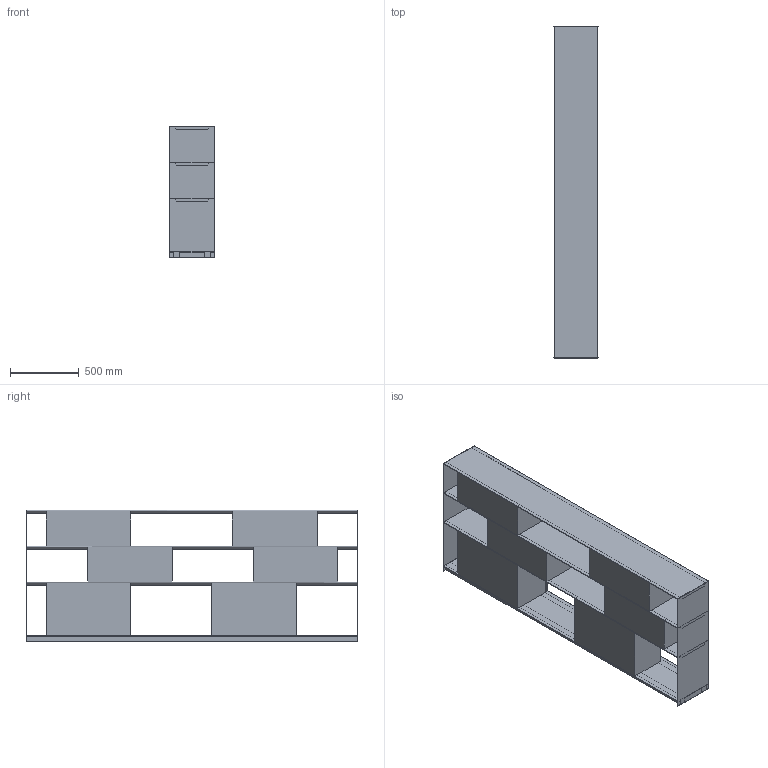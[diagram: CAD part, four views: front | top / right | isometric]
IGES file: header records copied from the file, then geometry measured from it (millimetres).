
Start section: Comment
Global section: file name: Stack - 240 x 095.igs; native system:  By UGS Corp.; preprocessor: XPlus GENERIC/IGES 3.0; author: Author; organization: Title; date: 20141016.143730; units: inch
Bounding box: 319 x 2405 x 953 mm (x, y, z)
Surface area: 13850372.4 mm2 (no closed solid volume)
Topology: 0 solids, 0 shells, 166 faces, 792 edges, 792 vertices
Faces by surface type: bspline 166
